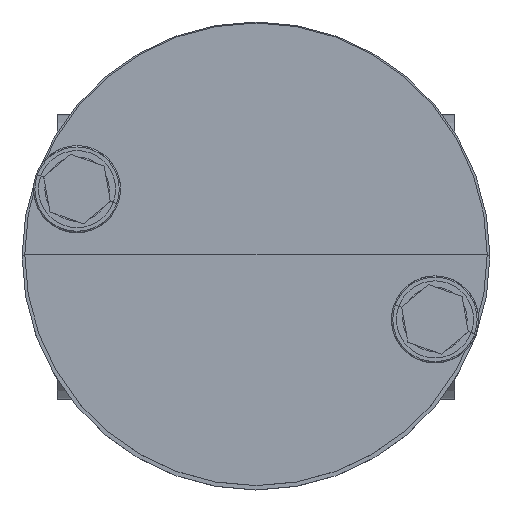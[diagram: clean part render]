
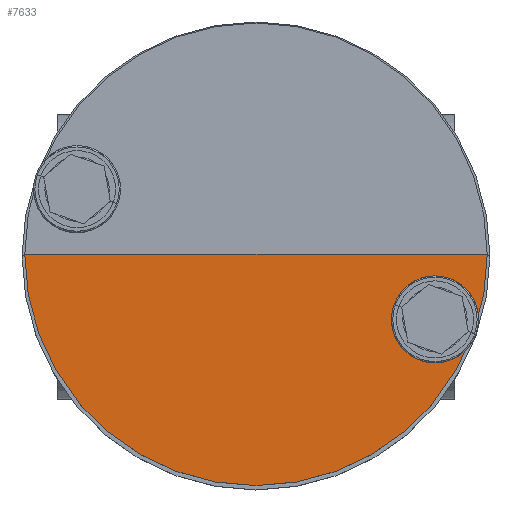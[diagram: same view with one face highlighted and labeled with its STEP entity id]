
A CAD part, top view. The second image highlights one B-rep face of the part: STEP entity #7633.
In plain terms, the highlighted planar face has unit normal (0, 0, 1).
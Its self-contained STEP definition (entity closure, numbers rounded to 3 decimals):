
#554=LINE('',#14160,#947);
#947=VECTOR('',#10215,304.8);
#1575=FACE_OUTER_BOUND('',#2113,.T.);
#2113=EDGE_LOOP('',(#5713,#5714));
#2704=CIRCLE('',#8458,84.997);
#3287=VERTEX_POINT('',#14143);
#3288=VERTEX_POINT('',#14145);
#4097=EDGE_CURVE('',#3288,#3287,#2704,.T.);
#4102=EDGE_CURVE('',#3287,#3288,#554,.T.);
#5713=ORIENTED_EDGE('',*,*,#4097,.F.);
#5714=ORIENTED_EDGE('',*,*,#4102,.F.);
#6755=PLANE('',#8464);
#7633=ADVANCED_FACE('',(#1575),#6755,.F.);
#8458=AXIS2_PLACEMENT_3D('',#14150,#10201,#10202);
#8464=AXIS2_PLACEMENT_3D('',#14161,#10216,#10217);
#10201=DIRECTION('center_axis',(0.,0.,-1.));
#10202=DIRECTION('ref_axis',(-1.,0.,0.));
#10215=DIRECTION('',(1.,0.,0.));
#10216=DIRECTION('center_axis',(0.,0.,-1.));
#10217=DIRECTION('ref_axis',(-1.,0.,0.));
#14143=CARTESIAN_POINT('',(-84.997,0.,479.305));
#14145=CARTESIAN_POINT('',(84.997,0.,479.305));
#14150=CARTESIAN_POINT('Origin',(0.,0.,479.305));
#14160=CARTESIAN_POINT('',(-84.997,0.,479.305));
#14161=CARTESIAN_POINT('Origin',(0.,0.,479.305));
